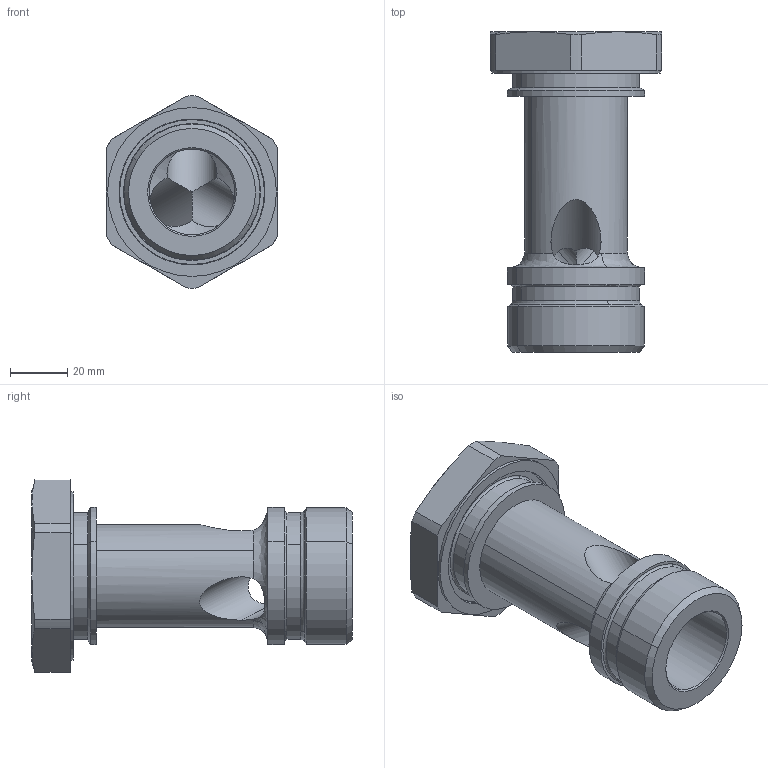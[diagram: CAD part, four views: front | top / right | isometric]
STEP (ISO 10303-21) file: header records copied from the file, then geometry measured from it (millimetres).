
FILE_DESCRIPTION((''),'2;1');
FILE_NAME('108108.0.stp','2007-11-06T08:29:46',(''),(''),'AutoCAD STEP 2000i','AutoCAD 2000i',', , ');
FILE_SCHEMA(('CONFIG_CONTROL_DESIGN'));
Length unit declared in the file: millimetre
Products named in the file (2): 108108.0; 1081#0
Assembly tree (1 placements, depth 2):
  108108.0
    1081#0
Bounding box: 60 x 112 x 67.19 mm (x, y, z)
Volume: 138107.3 mm3; surface area: 26835.9 mm2
Topology: 1 solids, 1 shells, 77 faces, 211 edges, 135 vertices
Faces by surface type: cylinder 30, cone 23, plane 14, bspline 10
Entity records: 3341 total; most frequent: CARTESIAN_POINT 1324, ORIENTED_EDGE 418, DIRECTION 406, EDGE_CURVE 209, AXIS2_PLACEMENT_3D 175, VERTEX_POINT 135, CIRCLE 103, EDGE_LOOP 84
